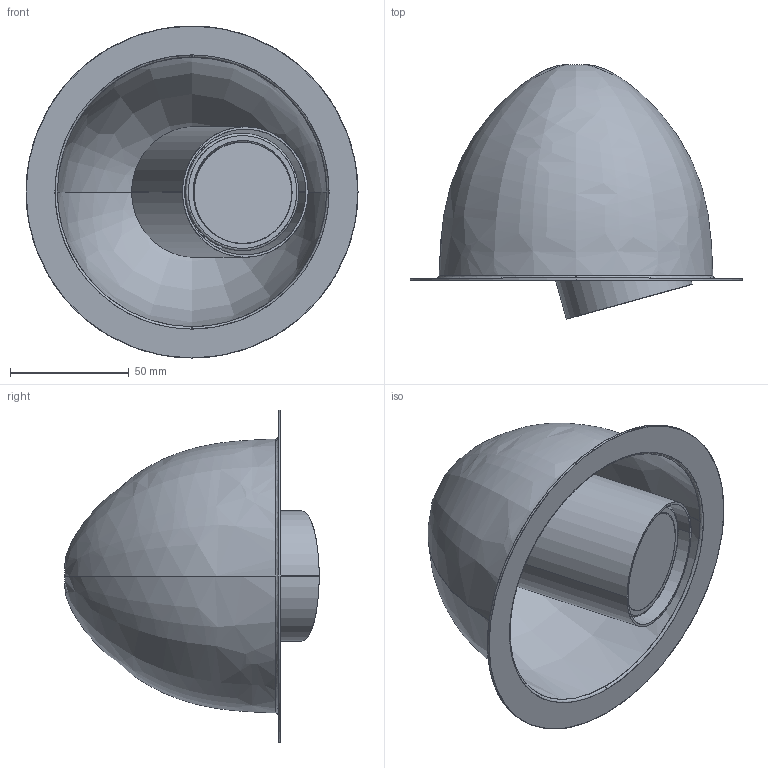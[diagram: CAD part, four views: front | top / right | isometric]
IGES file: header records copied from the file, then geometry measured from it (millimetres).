
Start section: SolidWorks IGES file using analytic representation for surfaces
Global section: file name: Z:\Modele 3D_WWW\_KOLEKCJE_WWW\DOT-9378-8826\DOT-9378-8826.IGS; native system: SolidWorks 2020; preprocessor: SolidWorks 2020; author: gabriela.tworek; date: 210515.194650; units: millimetre
Bounding box: 140 x 107.26 x 140 mm (x, y, z)
Surface area: 111361.6 mm2 (no closed solid volume)
Topology: 0 solids, 0 shells, 41 faces, 1101 edges, 1101 vertices
Faces by surface type: bspline 29, revolution 12
